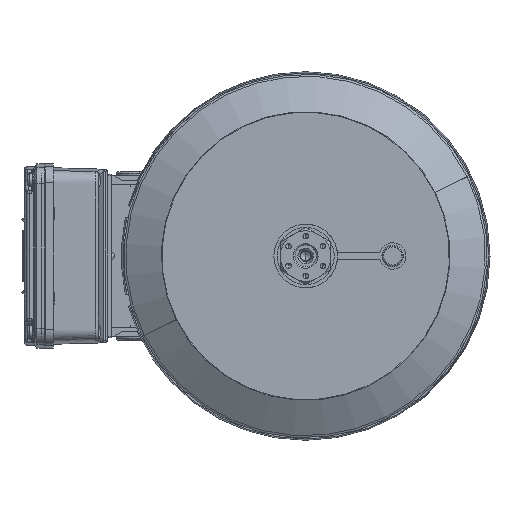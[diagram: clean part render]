
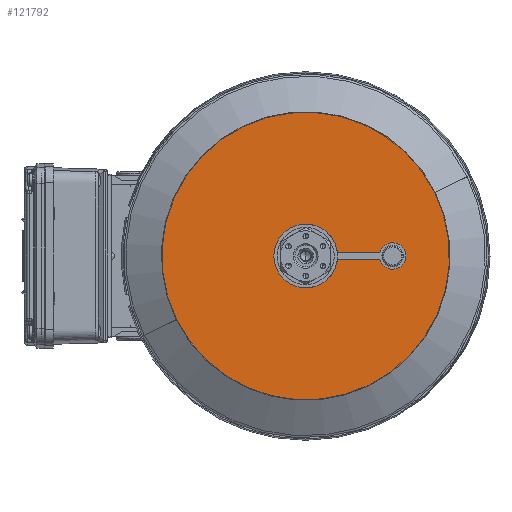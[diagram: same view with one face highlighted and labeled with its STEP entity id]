
A CAD part, left-side view. The second image highlights one B-rep face of the part: STEP entity #121792.
In plain terms, the highlighted planar face has unit normal (-1, 0, 0) as drawn and (0, -1, 0) by its records, which use the part's own axes.
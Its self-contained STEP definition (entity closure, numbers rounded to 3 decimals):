
#871 = CARTESIAN_POINT ( 'NONE',  ( 0., 0., -87.5 ) ) ;
#7153 = DIRECTION ( 'NONE',  ( 0., 1., 0. ) ) ;
#22924 = EDGE_CURVE ( 'NONE', #131915, #107834, #82226, .T. ) ;
#23049 = CARTESIAN_POINT ( 'NONE',  ( 0., 0., 0. ) ) ;
#23122 = AXIS2_PLACEMENT_3D ( 'NONE', #75843, #35259, #106693 ) ;
#23358 = DIRECTION ( 'NONE',  ( 0., 1., 0. ) ) ;
#24528 = ORIENTED_EDGE ( 'NONE', *, *, #29710, .F. ) ;
#25370 = AXIS2_PLACEMENT_3D ( 'NONE', #25387, #96880, #35698 ) ;
#25387 = CARTESIAN_POINT ( 'NONE',  ( 0., 0., 0. ) ) ;
#25985 = EDGE_LOOP ( 'NONE', ( #87594, #113920 ) ) ;
#27518 = VERTEX_POINT ( 'NONE', #110321 ) ;
#27834 = EDGE_CURVE ( 'NONE', #27518, #90402, #124189, .T. ) ;
#29051 = CARTESIAN_POINT ( 'NONE',  ( 0., 0., 13.5 ) ) ;
#29710 = EDGE_CURVE ( 'NONE', #107834, #131915, #43773, .T. ) ;
#33400 = DIRECTION ( 'NONE',  ( 0., 0., 1. ) ) ;
#35259 = DIRECTION ( 'NONE',  ( 0., -1., 0. ) ) ;
#35698 = DIRECTION ( 'NONE',  ( 0., 0., 1. ) ) ;
#40226 = AXIS2_PLACEMENT_3D ( 'NONE', #23049, #94589, #33400 ) ;
#41037 = AXIS2_PLACEMENT_3D ( 'NONE', #68317, #7153, #78597 ) ;
#43773 = CIRCLE ( 'NONE', #41037, 87.5 ) ;
#50520 = CARTESIAN_POINT ( 'NONE',  ( 0., 0., 87.5 ) ) ;
#54158 = CIRCLE ( 'NONE', #120491, 13.5 ) ;
#59129 = EDGE_CURVE ( 'NONE', #90402, #27518, #54158, .T. ) ;
#65623 = FACE_OUTER_BOUND ( 'NONE', #70470, .T. ) ;
#68317 = CARTESIAN_POINT ( 'NONE',  ( 0., 0., 0. ) ) ;
#70470 = EDGE_LOOP ( 'NONE', ( #117174, #24528 ) ) ;
#75843 = CARTESIAN_POINT ( 'NONE',  ( -87.5, 0., 0. ) ) ;
#78597 = DIRECTION ( 'NONE',  ( 0., 0., 1. ) ) ;
#82226 = CIRCLE ( 'NONE', #40226, 87.5 ) ;
#84596 = CARTESIAN_POINT ( 'NONE',  ( 0., 0., 0. ) ) ;
#87594 = ORIENTED_EDGE ( 'NONE', *, *, #59129, .T. ) ;
#90402 = VERTEX_POINT ( 'NONE', #29051 ) ;
#92856 = FACE_BOUND ( 'NONE', #25985, .T. ) ;
#94589 = DIRECTION ( 'NONE',  ( 0., 1., 0. ) ) ;
#94897 = DIRECTION ( 'NONE',  ( 0., 0., 1. ) ) ;
#96447 = PLANE ( 'NONE',  #23122 ) ;
#96880 = DIRECTION ( 'NONE',  ( 0., 1., 0. ) ) ;
#106693 = DIRECTION ( 'NONE',  ( 0., 0., -1. ) ) ;
#107834 = VERTEX_POINT ( 'NONE', #871 ) ;
#110321 = CARTESIAN_POINT ( 'NONE',  ( 0., 0., -13.5 ) ) ;
#113920 = ORIENTED_EDGE ( 'NONE', *, *, #27834, .T. ) ;
#117174 = ORIENTED_EDGE ( 'NONE', *, *, #22924, .F. ) ;
#120491 = AXIS2_PLACEMENT_3D ( 'NONE', #84596, #23358, #94897 ) ;
#121792 = ADVANCED_FACE ( 'NONE', ( #92856, #65623 ), #96447, .T. ) ;
#124189 = CIRCLE ( 'NONE', #25370, 13.5 ) ;
#131915 = VERTEX_POINT ( 'NONE', #50520 ) ;
